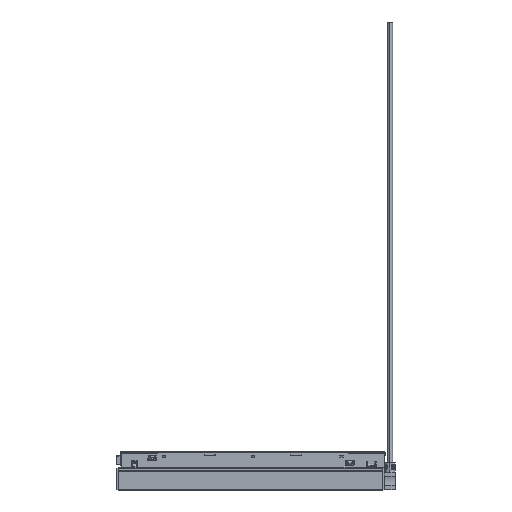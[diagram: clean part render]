
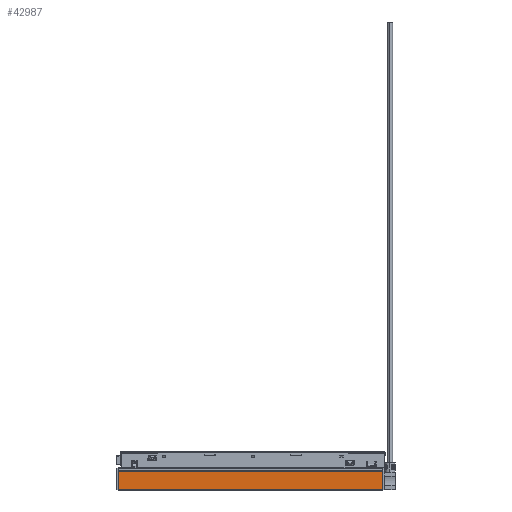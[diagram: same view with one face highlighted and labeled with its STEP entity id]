
A CAD part, left-side view. The second image highlights one B-rep face of the part: STEP entity #42987.
In plain terms, the highlighted planar face has unit normal (-1, 0, 0).
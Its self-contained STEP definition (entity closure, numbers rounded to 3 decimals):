
#42590=DIRECTION('',(0.,0.,1.));
#42591=VECTOR('',#42590,20.6);
#42592=CARTESIAN_POINT('',(0.,-150.,0.));
#42593=LINE('',#42592,#42591);
#42603=DIRECTION('',(0.,1.,0.));
#42604=VECTOR('',#42603,300.);
#42605=CARTESIAN_POINT('',(0.,-150.,20.6));
#42606=LINE('',#42605,#42604);
#42607=DIRECTION('',(0.,1.,0.));
#42608=VECTOR('',#42607,300.);
#42609=CARTESIAN_POINT('',(0.,-150.,0.));
#42610=LINE('',#42609,#42608);
#42704=DIRECTION('',(0.,0.,1.));
#42705=VECTOR('',#42704,20.6);
#42706=CARTESIAN_POINT('',(0.,150.,0.));
#42707=LINE('',#42706,#42705);
#42837=CARTESIAN_POINT('',(0.,-150.,0.));
#42838=VERTEX_POINT('',#42837);
#42839=CARTESIAN_POINT('',(0.,-150.,20.6));
#42840=VERTEX_POINT('',#42839);
#42885=CARTESIAN_POINT('',(0.,150.,0.));
#42886=VERTEX_POINT('',#42885);
#42887=CARTESIAN_POINT('',(0.,150.,20.6));
#42888=VERTEX_POINT('',#42887);
#42974=CARTESIAN_POINT('',(0.,-150.,0.));
#42975=DIRECTION('',(-1.,0.,0.));
#42976=DIRECTION('',(0.,0.,1.));
#42977=AXIS2_PLACEMENT_3D('',#42974,#42975,#42976);
#42978=PLANE('',#42977);
#42979=ORIENTED_EDGE('',*,*,#42938,.F.);
#42981=ORIENTED_EDGE('',*,*,#42980,.T.);
#42983=ORIENTED_EDGE('',*,*,#42982,.T.);
#42984=ORIENTED_EDGE('',*,*,#42966,.F.);
#42985=EDGE_LOOP('',(#42979,#42981,#42983,#42984));
#42986=FACE_OUTER_BOUND('',#42985,.F.);
#42987=ADVANCED_FACE('',(#42986),#42978,.T.);
#42938=EDGE_CURVE('',#42838,#42840,#42593,.T.);
#42966=EDGE_CURVE('',#42840,#42888,#42606,.T.);
#42980=EDGE_CURVE('',#42838,#42886,#42610,.T.);
#42982=EDGE_CURVE('',#42886,#42888,#42707,.T.);
